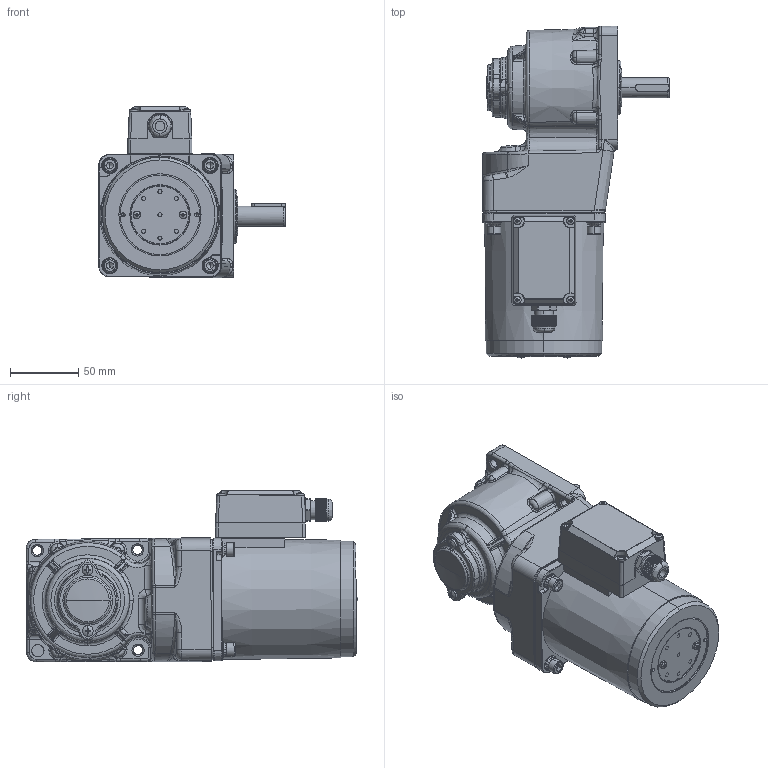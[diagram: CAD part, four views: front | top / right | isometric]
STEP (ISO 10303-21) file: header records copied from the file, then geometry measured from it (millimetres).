
FILE_DESCRIPTION (( 'STEP AP203' ), '1' );
FILE_NAME ('5RK40GU-CT(5GU3RT-180RT)ÐÂ.STEP', '2023-08-17T06:51:17', ( 'Windows User' ), ( 'P R C' ), 'SwSTEP 2.0', 'SolidWorks 2019', '' );
FILE_SCHEMA (( 'CONFIG_CONTROL_DESIGN' ));
Length unit declared in the file: millimetre
Products named in the file (10): 90RT____________^5RK40GU-CT(5GU3RT-180RT)陔(2)_5RK40GU-CT(5GU3RT-180RT)陔; zd-5gu-50rc-504-001m#________ 2021-12-07 - ____^5RK40GU-CT(5GU3RT-180RT)陔(2)_5RK40GU-CT(5GU3RT-180RT)陔; 5RK40GU-CT(5GU3RC-180RC)^5RK40GU-CT(5GU3RT-180RT)ÐÂ(2)_5RK40GU-CT(5GU3RT-180RT)ÐÂ; 90__________^5RK40GU-CT(5GU3RT-180RT)陔(2)_5RK40GU-CT(5GU3RT-180RT)陔; 5RK40GU-CT(5GU3RT-180RT)陔; ZD-5GU50RC-505-003______^5RK40GU-CT(5GU3RT-180RT)ÐÂ(2)_5RK40GU-CT(5GU3RT-180RT)ÐÂ; cross recessed pan head screws gb_GB_CROSS_SCREWS_TYPE1 M4X6-6  H type-N^5RK40GU-CT(5GU3RT-180RT)ÐÂ(2)_5RK40GU-CT(5GU3RT-180RT)ÐÂ; hexagon socket head cap screws gb_GB_FASTENER_SCREWS_HSHCS M5X12-N^5RK40GU-CT(5GU3RT-180RT)ÐÂ(2)_5RK40GU-CT(5GU3RT-180RT)ÐÂ; 90____^5RK40GU-CT(5GU3RT-180RT)陔(2)_5RK40GU-CT(5GU3RT-180RT)陔; 5RK40GU-CT(5GU3RT-180RT)陔(2)^5RK40GU-CT(5GU3RT-180RT)陔
Assembly tree (13 placements, depth 3):
  5RK40GU-CT(5GU3RT-180RT)陔
    5RK40GU-CT(5GU3RT-180RT)陔(2)^5RK40GU-CT(5GU3RT-180RT)陔
      zd-5gu-50rc-504-001m#________ 2021-12-07 - ____^5RK40GU-CT(5GU3RT-180RT)陔(2)_5RK40GU-CT(5GU3RT-180RT)陔
      90__________^5RK40GU-CT(5GU3RT-180RT)陔(2)_5RK40GU-CT(5GU3RT-180RT)陔
      90____^5RK40GU-CT(5GU3RT-180RT)陔(2)_5RK40GU-CT(5GU3RT-180RT)陔
      ZD-5GU50RC-505-003______^5RK40GU-CT(5GU3RT-180RT)ÐÂ(2)_5RK40GU-CT(5GU3RT-180RT)ÐÂ
      90RT____________^5RK40GU-CT(5GU3RT-180RT)陔(2)_5RK40GU-CT(5GU3RT-180RT)陔
      hexagon socket head cap screws gb_GB_FASTENER_SCREWS_HSHCS M5X12-N^5RK40GU-CT(5GU3RT-180RT)ÐÂ(2)_5RK40GU-CT(5GU3RT-180RT)ÐÂ  x4
      cross recessed pan head screws gb_GB_CROSS_SCREWS_TYPE1 M4X6-6  H type-N^5RK40GU-CT(5GU3RT-180RT)ÐÂ(2)_5RK40GU-CT(5GU3RT-180RT)ÐÂ  x2
      5RK40GU-CT(5GU3RC-180RC)^5RK40GU-CT(5GU3RT-180RT)ÐÂ(2)_5RK40GU-CT(5GU3RT-180RT)ÐÂ
Bounding box: 137 x 243.6 x 126.22 mm (x, y, z)
Volume: 894442 mm3; surface area: 193591.9 mm2
Topology: 29 solids, 41 shells, 2883 faces, 7076 edges, 4201 vertices
Faces by surface type: cone 837, plane 708, cylinder 697, bspline 540, torus 91, sphere 10
Entity records: 117743 total; most frequent: CARTESIAN_POINT 58240, ORIENTED_EDGE 13394, DIRECTION 10599, EDGE_CURVE 6699, AXIS2_PLACEMENT_3D 4309, VERTEX_POINT 4059, EDGE_LOOP 2898, ADVANCED_FACE 2783
